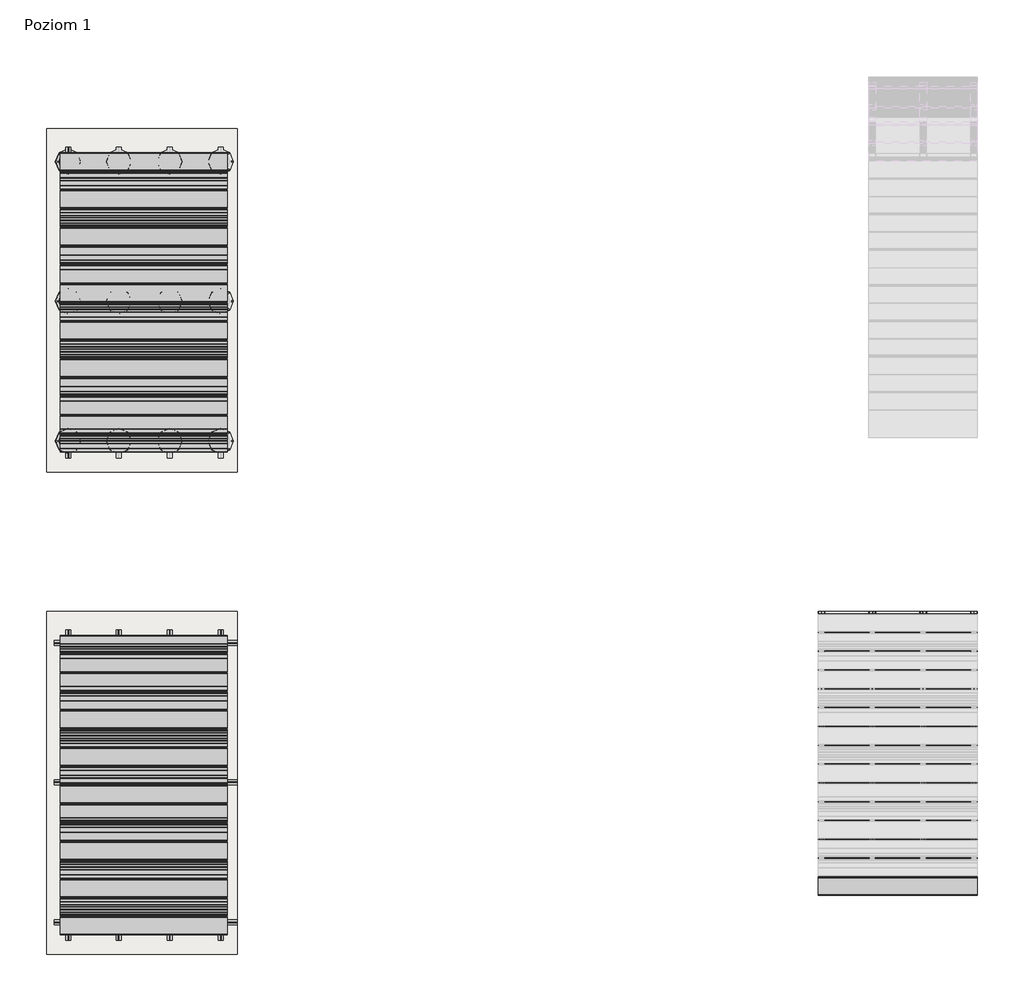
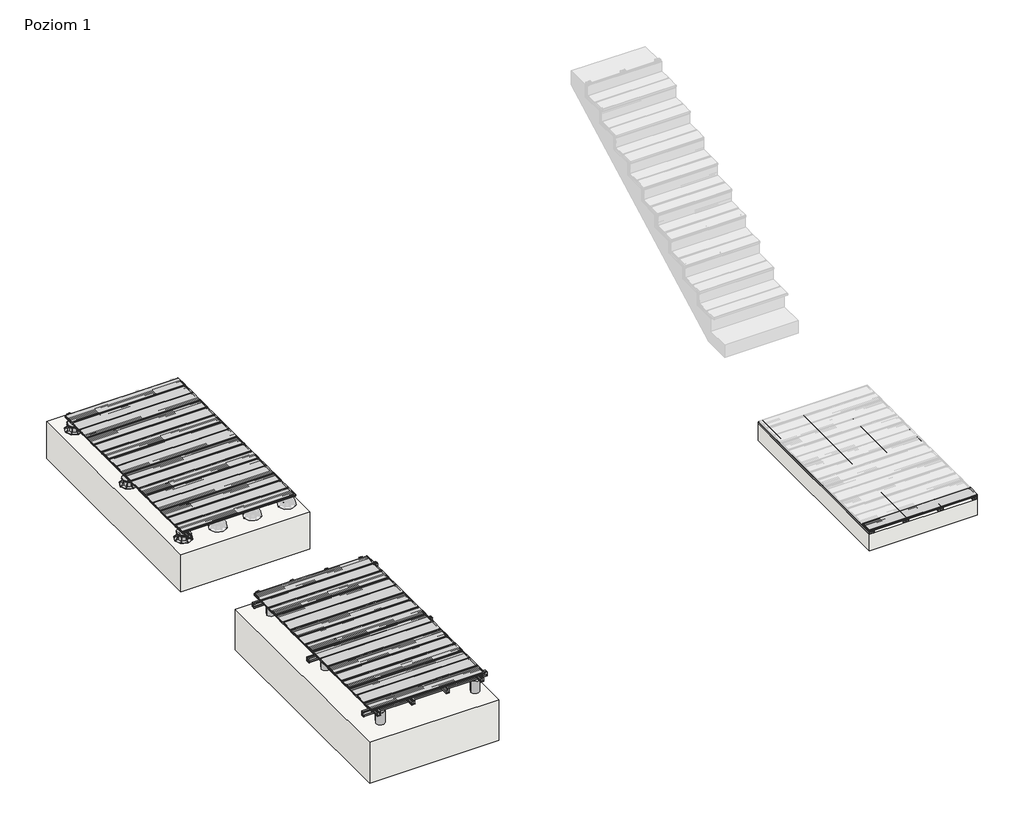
# One storey, part 1 of 3: 116 proxies, 6 columns, 3 slabs.
"""IFC4 building model written with IfcOpenShell, lengths in millimetres."""

from ifc_helpers import new_model, si_unit, frame, origin, place, context, project, spatial, polyline, outline, extrude, transform, mapped, element, save
from components import generic_models_f2eebd4b, generic_models_f69c671b, generic_models_c380d8c5, generic_models_7513529a, generic_models_15976a7a, deska_ld14022_deska_ld14022_7ee519a8, deska_ld14022_deska_ld14022_3323a89d, column_300mm_19173b5c

model = new_model("IFC4")

# Units and contexts
model_context = context("Model", 3, world=origin())
ifc_project = project(units=[si_unit("LENGTHUNIT", "METRE", prefix="MILLI")], contexts=[model_context])

# Site, building, storey
site = spatial("IfcSite", under=ifc_project)
building = spatial("IfcBuilding", under=site)
storey = spatial("IfcBuildingStorey", under=building, Name="Poziom 1", Elevation=0.0)

# Proxies
placement = place(None, origin())
generic_models_shape = generic_models_f2eebd4b(model_context)
element("IfcBuildingElementProxy", 1, Name="Klips montażowy : Klips montażowy", ObjectType="Klips montażowy : Klips montażowy", at=placement, inside=storey, context=model_context, shape_type="MappedRepresentation", body=[
    mapped(generic_models_shape, transform((6564.4622151, -12126.5985778, 0.0), x_axis=(1.0, 0.0, 0.0), y_axis=(0.0, 1.0, 0.0), z_axis=(0.0, 0.0, 1.0))),
])
element("IfcBuildingElementProxy", 2, Name="Klips montażowy : Klips montażowy", ObjectType="Klips montażowy : Klips montażowy", at=placement, inside=storey, context=model_context, shape_type="MappedRepresentation", body=[
    mapped(generic_models_shape, transform((6968.640944, -12127.0110448, 26.9981097), x_axis=(1.0, 0.0, 0.0), y_axis=(0.0, 1.0, 0.0), z_axis=(0.0, 0.0, 1.0))),
])
element("IfcBuildingElementProxy", 3, Name="Klips montażowy : Klips montażowy", ObjectType="Klips montażowy : Klips montażowy", at=placement, inside=storey, context=model_context, shape_type="MappedRepresentation", body=[
    mapped(generic_models_shape, transform((6568.640944, -12127.0110448, 26.9981097), x_axis=(1.0, 0.0, 0.0), y_axis=(0.0, 1.0, 0.0), z_axis=(0.0, 0.0, 1.0))),
])
element("IfcBuildingElementProxy", 4, Name="Klips montażowy : Klips montażowy", ObjectType="Klips montażowy : Klips montażowy", at=placement, inside=storey, context=model_context, shape_type="MappedRepresentation", body=[
    mapped(generic_models_shape, transform((6168.640944, -12127.0110448, 26.9981097), x_axis=(1.0, 0.0, 0.0), y_axis=(0.0, 1.0, 0.0), z_axis=(0.0, 0.0, 1.0))),
])
element("IfcBuildingElementProxy", 5, Name="Klips montażowy : Klips montażowy", ObjectType="Klips montażowy : Klips montażowy", at=placement, inside=storey, context=model_context, shape_type="MappedRepresentation", body=[
    mapped(generic_models_shape, transform((5768.640944, -12127.0110448, 26.9981097), x_axis=(1.0, 0.0, 0.0), y_axis=(0.0, 1.0, 0.0), z_axis=(0.0, 0.0, 1.0))),
])
element("IfcBuildingElementProxy", 6, Name="Klips montażowy : Klips montażowy", ObjectType="Klips montażowy : Klips montażowy", at=placement, inside=storey, context=model_context, shape_type="MappedRepresentation", body=[
    mapped(generic_models_shape, transform((1040.3000551, -11108.0905568, 100.0796601), x_axis=(1.0, 0.0, 0.0), y_axis=(0.0, 1.0, 0.0), z_axis=(0.0, 0.0, 1.0))),
])
element("IfcBuildingElementProxy", 7, Name="Klips montażowy : Klips montażowy", ObjectType="Klips montażowy : Klips montażowy", at=placement, inside=storey, context=model_context, shape_type="MappedRepresentation", body=[
    mapped(generic_models_shape, transform((1040.3000551, -11255.9053972, 100.0796601), x_axis=(1.0, 0.0, 0.0), y_axis=(0.0, 1.0, 0.0), z_axis=(0.0, 0.0, 1.0))),
])
element("IfcBuildingElementProxy", 8, Name="Klips montażowy : Klips montażowy", ObjectType="Klips montażowy : Klips montażowy", at=placement, inside=storey, context=model_context, shape_type="MappedRepresentation", body=[
    mapped(generic_models_shape, transform((1040.3000551, -11403.7202376, 100.0796601), x_axis=(1.0, 0.0, 0.0), y_axis=(0.0, 1.0, 0.0), z_axis=(0.0, 0.0, 1.0))),
])
element("IfcBuildingElementProxy", 9, Name="Klips montażowy : Klips montażowy", ObjectType="Klips montażowy : Klips montażowy", at=placement, inside=storey, context=model_context, shape_type="MappedRepresentation", body=[
    mapped(generic_models_shape, transform((1040.3000551, -11551.535078, 100.0796601), x_axis=(1.0, 0.0, 0.0), y_axis=(0.0, 1.0, 0.0), z_axis=(0.0, 0.0, 1.0))),
])
element("IfcBuildingElementProxy", 10, Name="Klips montażowy : Klips montażowy", ObjectType="Klips montażowy : Klips montażowy", at=placement, inside=storey, context=model_context, shape_type="MappedRepresentation", body=[
    mapped(generic_models_shape, transform((1040.3000551, -11699.3499184, 100.0796601), x_axis=(1.0, 0.0, 0.0), y_axis=(0.0, 1.0, 0.0), z_axis=(0.0, 0.0, 1.0))),
])
element("IfcBuildingElementProxy", 11, Name="Klips montażowy : Klips montażowy", ObjectType="Klips montażowy : Klips montażowy", at=placement, inside=storey, context=model_context, shape_type="MappedRepresentation", body=[
    mapped(generic_models_shape, transform((1040.3000551, -11847.1647588, 100.0796601), x_axis=(1.0, 0.0, 0.0), y_axis=(0.0, 1.0, 0.0), z_axis=(0.0, 0.0, 1.0))),
])
element("IfcBuildingElementProxy", 12, Name="Klips montażowy : Klips montażowy", ObjectType="Klips montażowy : Klips montażowy", at=placement, inside=storey, context=model_context, shape_type="MappedRepresentation", body=[
    mapped(generic_models_shape, transform((1040.3000551, -11994.9795992, 100.0796601), x_axis=(1.0, 0.0, 0.0), y_axis=(0.0, 1.0, 0.0), z_axis=(0.0, 0.0, 1.0))),
])
element("IfcBuildingElementProxy", 13, Name="Klips montażowy : Klips montażowy", ObjectType="Klips montażowy : Klips montażowy", at=placement, inside=storey, context=model_context, shape_type="MappedRepresentation", body=[
    mapped(generic_models_shape, transform((1040.3000551, -12142.7944396, 100.0796601), x_axis=(1.0, 0.0, 0.0), y_axis=(0.0, 1.0, 0.0), z_axis=(0.0, 0.0, 1.0))),
])
element("IfcBuildingElementProxy", 14, Name="Klips montażowy : Klips montażowy", ObjectType="Klips montażowy : Klips montażowy", at=placement, inside=storey, context=model_context, shape_type="MappedRepresentation", body=[
    mapped(generic_models_shape, transform((1040.3000551, -12290.60928, 100.0796601), x_axis=(1.0, 0.0, 0.0), y_axis=(0.0, 1.0, 0.0), z_axis=(0.0, 0.0, 1.0))),
])
element("IfcBuildingElementProxy", 15, Name="Klips montażowy : Klips montażowy", ObjectType="Klips montażowy : Klips montażowy", at=placement, inside=storey, context=model_context, shape_type="MappedRepresentation", body=[
    mapped(generic_models_shape, transform((1040.3000551, -12438.4241205, 100.0796601), x_axis=(1.0, 0.0, 0.0), y_axis=(0.0, 1.0, 0.0), z_axis=(0.0, 0.0, 1.0))),
])
element("IfcBuildingElementProxy", 16, Name="Klips montażowy : Klips montażowy", ObjectType="Klips montażowy : Klips montażowy", at=placement, inside=storey, context=model_context, shape_type="MappedRepresentation", body=[
    mapped(generic_models_shape, transform((640.3000551, -10369.0163547, 100.0796601), x_axis=(1.0, 0.0, 0.0), y_axis=(0.0, 1.0, 0.0), z_axis=(0.0, 0.0, 1.0))),
])
element("IfcBuildingElementProxy", 17, Name="Klips montażowy : Klips montażowy", ObjectType="Klips montażowy : Klips montażowy", at=placement, inside=storey, context=model_context, shape_type="MappedRepresentation", body=[
    mapped(generic_models_shape, transform((640.3000551, -10516.8311952, 100.0796601), x_axis=(1.0, 0.0, 0.0), y_axis=(0.0, 1.0, 0.0), z_axis=(0.0, 0.0, 1.0))),
])
element("IfcBuildingElementProxy", 18, Name="Klips montażowy : Klips montażowy", ObjectType="Klips montażowy : Klips montażowy", at=placement, inside=storey, context=model_context, shape_type="MappedRepresentation", body=[
    mapped(generic_models_shape, transform((640.3000551, -10664.6460356, 100.0796601), x_axis=(1.0, 0.0, 0.0), y_axis=(0.0, 1.0, 0.0), z_axis=(0.0, 0.0, 1.0))),
])
element("IfcBuildingElementProxy", 19, Name="Klips montażowy : Klips montażowy", ObjectType="Klips montażowy : Klips montażowy", at=placement, inside=storey, context=model_context, shape_type="MappedRepresentation", body=[
    mapped(generic_models_shape, transform((640.3000551, -11108.0905568, 100.0796601), x_axis=(1.0, 0.0, 0.0), y_axis=(0.0, 1.0, 0.0), z_axis=(0.0, 0.0, 1.0))),
])
element("IfcBuildingElementProxy", 20, Name="Klips montażowy : Klips montażowy", ObjectType="Klips montażowy : Klips montażowy", at=placement, inside=storey, context=model_context, shape_type="MappedRepresentation", body=[
    mapped(generic_models_shape, transform((640.3000551, -11255.9053972, 100.0796601), x_axis=(1.0, 0.0, 0.0), y_axis=(0.0, 1.0, 0.0), z_axis=(0.0, 0.0, 1.0))),
])
element("IfcBuildingElementProxy", 21, Name="Klips montażowy : Klips montażowy", ObjectType="Klips montażowy : Klips montażowy", at=placement, inside=storey, context=model_context, shape_type="MappedRepresentation", body=[
    mapped(generic_models_shape, transform((640.3000551, -11403.7202376, 100.0796601), x_axis=(1.0, 0.0, 0.0), y_axis=(0.0, 1.0, 0.0), z_axis=(0.0, 0.0, 1.0))),
])
element("IfcBuildingElementProxy", 22, Name="Klips montażowy : Klips montażowy", ObjectType="Klips montażowy : Klips montażowy", at=placement, inside=storey, context=model_context, shape_type="MappedRepresentation", body=[
    mapped(generic_models_shape, transform((640.3000551, -11551.535078, 100.0796601), x_axis=(1.0, 0.0, 0.0), y_axis=(0.0, 1.0, 0.0), z_axis=(0.0, 0.0, 1.0))),
])
element("IfcBuildingElementProxy", 23, Name="Klips montażowy : Klips montażowy", ObjectType="Klips montażowy : Klips montażowy", at=placement, inside=storey, context=model_context, shape_type="MappedRepresentation", body=[
    mapped(generic_models_shape, transform((640.3000551, -11699.3499184, 100.0796601), x_axis=(1.0, 0.0, 0.0), y_axis=(0.0, 1.0, 0.0), z_axis=(0.0, 0.0, 1.0))),
])
element("IfcBuildingElementProxy", 24, Name="Klips montażowy : Klips montażowy", ObjectType="Klips montażowy : Klips montażowy", at=placement, inside=storey, context=model_context, shape_type="MappedRepresentation", body=[
    mapped(generic_models_shape, transform((640.3000551, -11847.1647588, 100.0796601), x_axis=(1.0, 0.0, 0.0), y_axis=(0.0, 1.0, 0.0), z_axis=(0.0, 0.0, 1.0))),
])
element("IfcBuildingElementProxy", 25, Name="Klips montażowy : Klips montażowy", ObjectType="Klips montażowy : Klips montażowy", at=placement, inside=storey, context=model_context, shape_type="MappedRepresentation", body=[
    mapped(generic_models_shape, transform((640.3000551, -11994.9795992, 100.0796601), x_axis=(1.0, 0.0, 0.0), y_axis=(0.0, 1.0, 0.0), z_axis=(0.0, 0.0, 1.0))),
])
element("IfcBuildingElementProxy", 26, Name="Klips montażowy : Klips montażowy", ObjectType="Klips montażowy : Klips montażowy", at=placement, inside=storey, context=model_context, shape_type="MappedRepresentation", body=[
    mapped(generic_models_shape, transform((640.3000551, -12142.7944396, 100.0796601), x_axis=(1.0, 0.0, 0.0), y_axis=(0.0, 1.0, 0.0), z_axis=(0.0, 0.0, 1.0))),
])
element("IfcBuildingElementProxy", 27, Name="Klips montażowy : Klips montażowy", ObjectType="Klips montażowy : Klips montażowy", at=placement, inside=storey, context=model_context, shape_type="MappedRepresentation", body=[
    mapped(generic_models_shape, transform((640.3000551, -12290.60928, 100.0796601), x_axis=(1.0, 0.0, 0.0), y_axis=(0.0, 1.0, 0.0), z_axis=(0.0, 0.0, 1.0))),
])
element("IfcBuildingElementProxy", 28, Name="Klips montażowy : Klips montażowy", ObjectType="Klips montażowy : Klips montażowy", at=placement, inside=storey, context=model_context, shape_type="MappedRepresentation", body=[
    mapped(generic_models_shape, transform((640.3000551, -12438.4241205, 100.0796601), x_axis=(1.0, 0.0, 0.0), y_axis=(0.0, 1.0, 0.0), z_axis=(0.0, 0.0, 1.0))),
])
element("IfcBuildingElementProxy", 29, Name="Klips montażowy : Klips montażowy", ObjectType="Klips montażowy : Klips montażowy", at=placement, inside=storey, context=model_context, shape_type="MappedRepresentation", body=[
    mapped(generic_models_shape, transform((240.2735017, -11108.0905568, 100.0796601), x_axis=(1.0, 0.0, 0.0), y_axis=(0.0, 1.0, 0.0), z_axis=(0.0, 0.0, 1.0))),
])
element("IfcBuildingElementProxy", 30, Name="Klips montażowy : Klips montażowy", ObjectType="Klips montażowy : Klips montażowy", at=placement, inside=storey, context=model_context, shape_type="MappedRepresentation", body=[
    mapped(generic_models_shape, transform((240.2735017, -11255.9053972, 100.0796601), x_axis=(1.0, 0.0, 0.0), y_axis=(0.0, 1.0, 0.0), z_axis=(0.0, 0.0, 1.0))),
])
element("IfcBuildingElementProxy", 31, Name="Klips montażowy : Klips montażowy", ObjectType="Klips montażowy : Klips montażowy", at=placement, inside=storey, context=model_context, shape_type="MappedRepresentation", body=[
    mapped(generic_models_shape, transform((240.2735017, -11403.7202376, 100.0796601), x_axis=(1.0, 0.0, 0.0), y_axis=(0.0, 1.0, 0.0), z_axis=(0.0, 0.0, 1.0))),
])
element("IfcBuildingElementProxy", 32, Name="Klips montażowy : Klips montażowy", ObjectType="Klips montażowy : Klips montażowy", at=placement, inside=storey, context=model_context, shape_type="MappedRepresentation", body=[
    mapped(generic_models_shape, transform((240.2735017, -11551.535078, 100.0796601), x_axis=(1.0, 0.0, 0.0), y_axis=(0.0, 1.0, 0.0), z_axis=(0.0, 0.0, 1.0))),
])
element("IfcBuildingElementProxy", 33, Name="Klips montażowy : Klips montażowy", ObjectType="Klips montażowy : Klips montażowy", at=placement, inside=storey, context=model_context, shape_type="MappedRepresentation", body=[
    mapped(generic_models_shape, transform((240.2735017, -11699.3499184, 100.0796601), x_axis=(1.0, 0.0, 0.0), y_axis=(0.0, 1.0, 0.0), z_axis=(0.0, 0.0, 1.0))),
])
element("IfcBuildingElementProxy", 34, Name="Klips montażowy : Klips montażowy", ObjectType="Klips montażowy : Klips montażowy", at=placement, inside=storey, context=model_context, shape_type="MappedRepresentation", body=[
    mapped(generic_models_shape, transform((240.2735017, -11847.1647588, 100.0796601), x_axis=(1.0, 0.0, 0.0), y_axis=(0.0, 1.0, 0.0), z_axis=(0.0, 0.0, 1.0))),
])
element("IfcBuildingElementProxy", 35, Name="Klips montażowy : Klips montażowy", ObjectType="Klips montażowy : Klips montażowy", at=placement, inside=storey, context=model_context, shape_type="MappedRepresentation", body=[
    mapped(generic_models_shape, transform((240.2735017, -11994.9795992, 100.0796601), x_axis=(1.0, 0.0, 0.0), y_axis=(0.0, 1.0, 0.0), z_axis=(0.0, 0.0, 1.0))),
])
element("IfcBuildingElementProxy", 36, Name="Klips montażowy : Klips montażowy", ObjectType="Klips montażowy : Klips montażowy", at=placement, inside=storey, context=model_context, shape_type="MappedRepresentation", body=[
    mapped(generic_models_shape, transform((240.2735017, -12142.7944396, 100.0796601), x_axis=(1.0, 0.0, 0.0), y_axis=(0.0, 1.0, 0.0), z_axis=(0.0, 0.0, 1.0))),
])
element("IfcBuildingElementProxy", 37, Name="Klips montażowy : Klips montażowy", ObjectType="Klips montażowy : Klips montażowy", at=placement, inside=storey, context=model_context, shape_type="MappedRepresentation", body=[
    mapped(generic_models_shape, transform((240.2735017, -12290.60928, 100.0796601), x_axis=(1.0, 0.0, 0.0), y_axis=(0.0, 1.0, 0.0), z_axis=(0.0, 0.0, 1.0))),
])
element("IfcBuildingElementProxy", 38, Name="Klips montażowy : Klips montażowy", ObjectType="Klips montażowy : Klips montażowy", at=placement, inside=storey, context=model_context, shape_type="MappedRepresentation", body=[
    mapped(generic_models_shape, transform((240.2735017, -12438.4241205, 100.0796601), x_axis=(1.0, 0.0, 0.0), y_axis=(0.0, 1.0, 0.0), z_axis=(0.0, 0.0, 1.0))),
])
element("IfcBuildingElementProxy", 39, Name="Klips montażowy : Klips montażowy", ObjectType="Klips montażowy : Klips montażowy", at=placement, inside=storey, context=model_context, shape_type="MappedRepresentation", body=[
    mapped(generic_models_shape, transform((-159.7530516, -10369.0163547, 100.0796601), x_axis=(1.0, 0.0, 0.0), y_axis=(0.0, 1.0, 0.0), z_axis=(0.0, 0.0, 1.0))),
])
element("IfcBuildingElementProxy", 40, Name="Klips montażowy : Klips montażowy", ObjectType="Klips montażowy : Klips montażowy", at=placement, inside=storey, context=model_context, shape_type="MappedRepresentation", body=[
    mapped(generic_models_shape, transform((-159.7530516, -10516.8311952, 100.0796601), x_axis=(1.0, 0.0, 0.0), y_axis=(0.0, 1.0, 0.0), z_axis=(0.0, 0.0, 1.0))),
])
element("IfcBuildingElementProxy", 41, Name="Klips montażowy : Klips montażowy", ObjectType="Klips montażowy : Klips montażowy", at=placement, inside=storey, context=model_context, shape_type="MappedRepresentation", body=[
    mapped(generic_models_shape, transform((-159.7530516, -10664.6460356, 100.0796601), x_axis=(1.0, 0.0, 0.0), y_axis=(0.0, 1.0, 0.0), z_axis=(0.0, 0.0, 1.0))),
])
element("IfcBuildingElementProxy", 42, Name="Klips montażowy : Klips montażowy", ObjectType="Klips montażowy : Klips montażowy", at=placement, inside=storey, context=model_context, shape_type="MappedRepresentation", body=[
    mapped(generic_models_shape, transform((-159.7530516, -10812.460876, 100.0796601), x_axis=(1.0, 0.0, 0.0), y_axis=(0.0, 1.0, 0.0), z_axis=(0.0, 0.0, 1.0))),
])
element("IfcBuildingElementProxy", 43, Name="Klips montażowy : Klips montażowy", ObjectType="Klips montażowy : Klips montażowy", at=placement, inside=storey, context=model_context, shape_type="MappedRepresentation", body=[
    mapped(generic_models_shape, transform((-159.7530516, -10960.2757164, 100.0796601), x_axis=(1.0, 0.0, 0.0), y_axis=(0.0, 1.0, 0.0), z_axis=(0.0, 0.0, 1.0))),
])
element("IfcBuildingElementProxy", 44, Name="Klips montażowy : Klips montażowy", ObjectType="Klips montażowy : Klips montażowy", at=placement, inside=storey, context=model_context, shape_type="MappedRepresentation", body=[
    mapped(generic_models_shape, transform((-159.7530516, -11108.0905568, 100.0796601), x_axis=(1.0, 0.0, 0.0), y_axis=(0.0, 1.0, 0.0), z_axis=(0.0, 0.0, 1.0))),
])
element("IfcBuildingElementProxy", 45, Name="Klips montażowy : Klips montażowy", ObjectType="Klips montażowy : Klips montażowy", at=placement, inside=storey, context=model_context, shape_type="MappedRepresentation", body=[
    mapped(generic_models_shape, transform((-159.7530516, -11255.9053972, 100.0796601), x_axis=(1.0, 0.0, 0.0), y_axis=(0.0, 1.0, 0.0), z_axis=(0.0, 0.0, 1.0))),
])
element("IfcBuildingElementProxy", 46, Name="Klips montażowy : Klips montażowy", ObjectType="Klips montażowy : Klips montażowy", at=placement, inside=storey, context=model_context, shape_type="MappedRepresentation", body=[
    mapped(generic_models_shape, transform((-159.7530516, -11403.7202376, 100.0796601), x_axis=(1.0, 0.0, 0.0), y_axis=(0.0, 1.0, 0.0), z_axis=(0.0, 0.0, 1.0))),
])
element("IfcBuildingElementProxy", 47, Name="Klips montażowy : Klips montażowy", ObjectType="Klips montażowy : Klips montażowy", at=placement, inside=storey, context=model_context, shape_type="MappedRepresentation", body=[
    mapped(generic_models_shape, transform((-159.7530516, -11551.535078, 100.0796601), x_axis=(1.0, 0.0, 0.0), y_axis=(0.0, 1.0, 0.0), z_axis=(0.0, 0.0, 1.0))),
])
element("IfcBuildingElementProxy", 48, Name="Klips montażowy : Klips montażowy", ObjectType="Klips montażowy : Klips montażowy", at=placement, inside=storey, context=model_context, shape_type="MappedRepresentation", body=[
    mapped(generic_models_shape, transform((-159.7530516, -11699.3499184, 100.0796601), x_axis=(1.0, 0.0, 0.0), y_axis=(0.0, 1.0, 0.0), z_axis=(0.0, 0.0, 1.0))),
])
element("IfcBuildingElementProxy", 49, Name="Klips montażowy : Klips montażowy", ObjectType="Klips montażowy : Klips montażowy", at=placement, inside=storey, context=model_context, shape_type="MappedRepresentation", body=[
    mapped(generic_models_shape, transform((-159.7530516, -11847.1647588, 100.0796601), x_axis=(1.0, 0.0, 0.0), y_axis=(0.0, 1.0, 0.0), z_axis=(0.0, 0.0, 1.0))),
])
element("IfcBuildingElementProxy", 50, Name="Klips montażowy : Klips montażowy", ObjectType="Klips montażowy : Klips montażowy", at=placement, inside=storey, context=model_context, shape_type="MappedRepresentation", body=[
    mapped(generic_models_shape, transform((-159.7530516, -11994.9795992, 100.0796601), x_axis=(1.0, 0.0, 0.0), y_axis=(0.0, 1.0, 0.0), z_axis=(0.0, 0.0, 1.0))),
])
element("IfcBuildingElementProxy", 51, Name="Klips montażowy : Klips montażowy", ObjectType="Klips montażowy : Klips montażowy", at=placement, inside=storey, context=model_context, shape_type="MappedRepresentation", body=[
    mapped(generic_models_shape, transform((-159.7530516, -12142.7944396, 100.0796601), x_axis=(1.0, 0.0, 0.0), y_axis=(0.0, 1.0, 0.0), z_axis=(0.0, 0.0, 1.0))),
])
element("IfcBuildingElementProxy", 52, Name="Klips montażowy : Klips montażowy", ObjectType="Klips montażowy : Klips montażowy", at=placement, inside=storey, context=model_context, shape_type="MappedRepresentation", body=[
    mapped(generic_models_shape, transform((-159.7530516, -12290.60928, 100.0796601), x_axis=(1.0, 0.0, 0.0), y_axis=(0.0, 1.0, 0.0), z_axis=(0.0, 0.0, 1.0))),
])
element("IfcBuildingElementProxy", 53, Name="Klips montażowy : Klips montażowy", ObjectType="Klips montażowy : Klips montażowy", at=placement, inside=storey, context=model_context, shape_type="MappedRepresentation", body=[
    mapped(generic_models_shape, transform((-159.7530516, -12438.4241205, 100.0796601), x_axis=(1.0, 0.0, 0.0), y_axis=(0.0, 1.0, 0.0), z_axis=(0.0, 0.0, 1.0))),
])
element("IfcBuildingElementProxy", 54, Name="Klips montażowy : Klips montażowy", ObjectType="Klips montażowy : Klips montażowy", at=placement, inside=storey, context=model_context, shape_type="MappedRepresentation", body=[
    mapped(generic_models_shape, transform((-159.7530516, -6569.0163547, -19.9602499), x_axis=(1.0, 0.0, 0.0), y_axis=(0.0, 1.0, 0.0), z_axis=(0.0, 0.0, 1.0))),
])
element("IfcBuildingElementProxy", 55, Name="Klips montażowy : Klips montażowy", ObjectType="Klips montażowy : Klips montażowy", at=placement, inside=storey, context=model_context, shape_type="MappedRepresentation", body=[
    mapped(generic_models_shape, transform((-159.7530516, -6716.8311952, -19.9602499), x_axis=(1.0, 0.0, 0.0), y_axis=(0.0, 1.0, 0.0), z_axis=(0.0, 0.0, 1.0))),
])
element("IfcBuildingElementProxy", 56, Name="Klips montażowy : Klips montażowy", ObjectType="Klips montażowy : Klips montażowy", at=placement, inside=storey, context=model_context, shape_type="MappedRepresentation", body=[
    mapped(generic_models_shape, transform((-159.7530516, -6864.6460356, -19.9602499), x_axis=(1.0, 0.0, 0.0), y_axis=(0.0, 1.0, 0.0), z_axis=(0.0, 0.0, 1.0))),
])
element("IfcBuildingElementProxy", 57, Name="Klips montażowy : Klips montażowy", ObjectType="Klips montażowy : Klips montażowy", at=placement, inside=storey, context=model_context, shape_type="MappedRepresentation", body=[
    mapped(generic_models_shape, transform((-159.7530516, -7012.460876, -19.9602499), x_axis=(1.0, 0.0, 0.0), y_axis=(0.0, 1.0, 0.0), z_axis=(0.0, 0.0, 1.0))),
])
element("IfcBuildingElementProxy", 58, Name="Klips montażowy : Klips montażowy", ObjectType="Klips montażowy : Klips montażowy", at=placement, inside=storey, context=model_context, shape_type="MappedRepresentation", body=[
    mapped(generic_models_shape, transform((-159.7530516, -7160.2757164, -19.9602499), x_axis=(1.0, 0.0, 0.0), y_axis=(0.0, 1.0, 0.0), z_axis=(0.0, 0.0, 1.0))),
])
element("IfcBuildingElementProxy", 59, Name="Klips montażowy : Klips montażowy", ObjectType="Klips montażowy : Klips montażowy", at=placement, inside=storey, context=model_context, shape_type="MappedRepresentation", body=[
    mapped(generic_models_shape, transform((-159.7530516, -7308.0905568, -19.9602499), x_axis=(1.0, 0.0, 0.0), y_axis=(0.0, 1.0, 0.0), z_axis=(0.0, 0.0, 1.0))),
])
element("IfcBuildingElementProxy", 60, Name="Klips montażowy : Klips montażowy", ObjectType="Klips montażowy : Klips montażowy", at=placement, inside=storey, context=model_context, shape_type="MappedRepresentation", body=[
    mapped(generic_models_shape, transform((-159.7530516, -7455.9053972, -19.9602499), x_axis=(1.0, 0.0, 0.0), y_axis=(0.0, 1.0, 0.0), z_axis=(0.0, 0.0, 1.0))),
])
element("IfcBuildingElementProxy", 61, Name="Klips montażowy : Klips montażowy", ObjectType="Klips montażowy : Klips montażowy", at=placement, inside=storey, context=model_context, shape_type="MappedRepresentation", body=[
    mapped(generic_models_shape, transform((-159.7530516, -7603.7202376, -19.9602499), x_axis=(1.0, 0.0, 0.0), y_axis=(0.0, 1.0, 0.0), z_axis=(0.0, 0.0, 1.0))),
])
element("IfcBuildingElementProxy", 62, Name="Klips montażowy : Klips montażowy", ObjectType="Klips montażowy : Klips montażowy", at=placement, inside=storey, context=model_context, shape_type="MappedRepresentation", body=[
    mapped(generic_models_shape, transform((-159.7530516, -7751.535078, -19.9602499), x_axis=(1.0, 0.0, 0.0), y_axis=(0.0, 1.0, 0.0), z_axis=(0.0, 0.0, 1.0))),
])
element("IfcBuildingElementProxy", 63, Name="Klips montażowy : Klips montażowy", ObjectType="Klips montażowy : Klips montażowy", at=placement, inside=storey, context=model_context, shape_type="MappedRepresentation", body=[
    mapped(generic_models_shape, transform((-159.7530516, -7899.3499184, -19.9602499), x_axis=(1.0, 0.0, 0.0), y_axis=(0.0, 1.0, 0.0), z_axis=(0.0, 0.0, 1.0))),
])
element("IfcBuildingElementProxy", 64, Name="Klips montażowy : Klips montażowy", ObjectType="Klips montażowy : Klips montażowy", at=placement, inside=storey, context=model_context, shape_type="MappedRepresentation", body=[
    mapped(generic_models_shape, transform((-159.7530516, -8047.1647588, -19.9602499), x_axis=(1.0, 0.0, 0.0), y_axis=(0.0, 1.0, 0.0), z_axis=(0.0, 0.0, 1.0))),
])
element("IfcBuildingElementProxy", 65, Name="Klips montażowy : Klips montażowy", ObjectType="Klips montażowy : Klips montażowy", at=placement, inside=storey, context=model_context, shape_type="MappedRepresentation", body=[
    mapped(generic_models_shape, transform((-159.7530516, -8194.9795992, -19.9602499), x_axis=(1.0, 0.0, 0.0), y_axis=(0.0, 1.0, 0.0), z_axis=(0.0, 0.0, 1.0))),
])
element("IfcBuildingElementProxy", 66, Name="Klips montażowy : Klips montażowy", ObjectType="Klips montażowy : Klips montażowy", at=placement, inside=storey, context=model_context, shape_type="MappedRepresentation", body=[
    mapped(generic_models_shape, transform((-159.7530516, -8342.7944396, -19.9602499), x_axis=(1.0, 0.0, 0.0), y_axis=(0.0, 1.0, 0.0), z_axis=(0.0, 0.0, 1.0))),
])
element("IfcBuildingElementProxy", 67, Name="Klips montażowy : Klips montażowy", ObjectType="Klips montażowy : Klips montażowy", at=placement, inside=storey, context=model_context, shape_type="MappedRepresentation", body=[
    mapped(generic_models_shape, transform((-159.7530516, -8490.60928, -19.9602499), x_axis=(1.0, 0.0, 0.0), y_axis=(0.0, 1.0, 0.0), z_axis=(0.0, 0.0, 1.0))),
])
element("IfcBuildingElementProxy", 68, Name="Klips montażowy : Klips montażowy", ObjectType="Klips montażowy : Klips montażowy", at=placement, inside=storey, context=model_context, shape_type="MappedRepresentation", body=[
    mapped(generic_models_shape, transform((-159.7530516, -8638.4241205, -19.9602499), x_axis=(1.0, 0.0, 0.0), y_axis=(0.0, 1.0, 0.0), z_axis=(0.0, 0.0, 1.0))),
])
generic_models_2_shape = generic_models_f69c671b(model_context)
element("IfcBuildingElementProxy", 69, Name="Legar systemowy LD5030 : Legar systemowy LD5030", ObjectType="Legar systemowy LD5030 : Legar systemowy LD5030", at=placement, inside=storey, context=model_context, shape_type="MappedRepresentation", body=[
    mapped(generic_models_2_shape, transform((6941.7939993, -12270.6411412, -3.0018903), x_axis=(0.0, 1.0, 0.0), y_axis=(-1.0, 0.0, 0.0), z_axis=(0.0, 0.0, 1.0))),
])
element("IfcBuildingElementProxy", 70, Name="Legar systemowy LD5030 : Legar systemowy LD5030", ObjectType="Legar systemowy LD5030 : Legar systemowy LD5030", at=placement, inside=storey, context=model_context, shape_type="MappedRepresentation", body=[
    mapped(generic_models_2_shape, transform((6541.7939993, -12270.6411412, -3.0018903), x_axis=(0.0, 1.0, 0.0), y_axis=(-1.0, 0.0, 0.0), z_axis=(0.0, 0.0, 1.0))),
])
element("IfcBuildingElementProxy", 71, Name="Legar systemowy LD5030 : Legar systemowy LD5030", ObjectType="Legar systemowy LD5030 : Legar systemowy LD5030", at=placement, inside=storey, context=model_context, shape_type="MappedRepresentation", body=[
    mapped(generic_models_2_shape, transform((6141.7939993, -12270.6411412, -3.0018903), x_axis=(0.0, 1.0, 0.0), y_axis=(-1.0, 0.0, 0.0), z_axis=(0.0, 0.0, 1.0))),
])
element("IfcBuildingElementProxy", 72, Name="Legar systemowy LD5030 : Legar systemowy LD5030", ObjectType="Legar systemowy LD5030 : Legar systemowy LD5030", at=placement, inside=storey, context=model_context, shape_type="MappedRepresentation", body=[
    mapped(generic_models_2_shape, transform((5741.7939993, -12270.6411412, -3.0018903), x_axis=(0.0, 1.0, 0.0), y_axis=(-1.0, 0.0, 0.0), z_axis=(0.0, 0.0, 1.0))),
])
generic_models_3_shape = generic_models_c380d8c5(model_context)
element("IfcBuildingElementProxy", 73, Name="Legar LD5039ALU : Legar LD5039ALU", ObjectType="Legar LD5039ALU : Legar LD5039ALU", at=placement, inside=storey, context=model_context, shape_type="MappedRepresentation", body=[
    mapped(generic_models_3_shape, transform((1020.8790883, -12627.3004533, 50.0398301), x_axis=(0.0, 1.0, 0.0), y_axis=(-1.0, 0.0, 0.0), z_axis=(0.0, 0.0, 1.0))),
])
element("IfcBuildingElementProxy", 74, Name="Legar LD5039ALU : Legar LD5039ALU", ObjectType="Legar LD5039ALU : Legar LD5039ALU", at=placement, inside=storey, context=model_context, shape_type="MappedRepresentation", body=[
    mapped(generic_models_3_shape, transform((620.8790883, -12627.3004533, 50.0398301), x_axis=(0.0, 1.0, 0.0), y_axis=(-1.0, 0.0, 0.0), z_axis=(0.0, 0.0, 1.0))),
])
element("IfcBuildingElementProxy", 75, Name="Legar LD5039ALU : Legar LD5039ALU", ObjectType="Legar LD5039ALU : Legar LD5039ALU", at=placement, inside=storey, context=model_context, shape_type="MappedRepresentation", body=[
    mapped(generic_models_3_shape, transform((220.852535, -12627.3004533, 50.0398301), x_axis=(0.0, 1.0, 0.0), y_axis=(-1.0, 0.0, 0.0), z_axis=(0.0, 0.0, 1.0))),
])
element("IfcBuildingElementProxy", 76, Name="Legar LD5039ALU : Legar LD5039ALU", ObjectType="Legar LD5039ALU : Legar LD5039ALU", at=placement, inside=storey, context=model_context, shape_type="MappedRepresentation", body=[
    mapped(generic_models_3_shape, transform((-179.1740184, -12627.3004533, 50.0398301), x_axis=(0.0, 1.0, 0.0), y_axis=(-1.0, 0.0, 0.0), z_axis=(0.0, 0.0, 1.0))),
])
element("IfcBuildingElementProxy", 77, Name="Legar LD5039ALU : Legar LD5039ALU", ObjectType="Legar LD5039ALU : Legar LD5039ALU", at=placement, inside=storey, context=model_context, shape_type="MappedRepresentation", body=[
    mapped(generic_models_3_shape, transform((-179.1740184, -8827.3004533, -70.00008), x_axis=(0.0, 1.0, 0.0), y_axis=(-1.0, 0.0, 0.0), z_axis=(0.0, 0.0, 1.0))),
])
generic_models_4_shape = generic_models_7513529a(model_context)
element("IfcBuildingElementProxy", 78, Name="Legar LD5039ALU : Legar LD5039ALU", ObjectType="Legar LD5039ALU : Legar LD5039ALU", at=placement, inside=storey, context=model_context, shape_type="MappedRepresentation", body=[
    mapped(generic_models_4_shape, transform((-267.4103407, -10264.0120171, 0.0), x_axis=(1.0, 0.0, 0.0), y_axis=(0.0, 1.0, 0.0), z_axis=(0.0, 0.0, 1.0))),
])
element("IfcBuildingElementProxy", 79, Name="Legar LD5039ALU : Legar LD5039ALU", ObjectType="Legar LD5039ALU : Legar LD5039ALU", at=placement, inside=storey, context=model_context, shape_type="MappedRepresentation", body=[
    mapped(generic_models_4_shape, transform((-267.4103407, -11364.0120171, 0.0), x_axis=(1.0, 0.0, 0.0), y_axis=(0.0, 1.0, 0.0), z_axis=(0.0, 0.0, 1.0))),
])
element("IfcBuildingElementProxy", 80, Name="Legar LD5039ALU : Legar LD5039ALU", ObjectType="Legar LD5039ALU : Legar LD5039ALU", at=placement, inside=storey, context=model_context, shape_type="MappedRepresentation", body=[
    mapped(generic_models_4_shape, transform((-267.4103407, -12464.0120171, 0.0), x_axis=(1.0, 0.0, 0.0), y_axis=(0.0, 1.0, 0.0), z_axis=(0.0, 0.0, 1.0))),
])
generic_models_5_shape = generic_models_15976a7a(model_context)
element("IfcBuildingElementProxy", 81, Name="Podparcie legarow : Podparcie legarow", ObjectType="Podparcie legarow : Podparcie legarow", at=placement, inside=storey, context=model_context, shape_type="MappedRepresentation", body=[
    mapped(generic_models_5_shape, transform((-160.493721, -6495.1517151, -150.0), x_axis=(-1.0, 0.0, 0.0), y_axis=(0.0, -1.0, 0.0), z_axis=(0.0, 0.0, 1.0))),
])
element("IfcBuildingElementProxy", 82, Name="Podparcie legarow : Podparcie legarow", ObjectType="Podparcie legarow : Podparcie legarow", at=placement, inside=storey, context=model_context, shape_type="MappedRepresentation", body=[
    mapped(generic_models_5_shape, transform((-160.493721, -7595.1517151, -150.0), x_axis=(-1.0, 0.0, 0.0), y_axis=(0.0, -1.0, 0.0), z_axis=(0.0, 0.0, 1.0))),
])
element("IfcBuildingElementProxy", 83, Name="Podparcie legarow : Podparcie legarow", ObjectType="Podparcie legarow : Podparcie legarow", at=placement, inside=storey, context=model_context, shape_type="MappedRepresentation", body=[
    mapped(generic_models_5_shape, transform((-160.493721, -8695.1517151, -150.0), x_axis=(-1.0, 0.0, 0.0), y_axis=(0.0, -1.0, 0.0), z_axis=(0.0, 0.0, 1.0))),
])
deska_ld14022_deska_ld14022_shape = deska_ld14022_deska_ld14022_7ee519a8(model_context)
element("IfcBuildingElementProxy", 84, Name="Deska LD14022 : Deska LD14022", ObjectType="Deska LD14022 : Deska LD14022", at=placement, inside=storey, context=model_context, shape_type="MappedRepresentation", body=[
    mapped(deska_ld14022_deska_ld14022_shape, transform((5741.7939993, -12130.6411412, 27.9937199), x_axis=(1.0, 0.0, 0.0), y_axis=(0.0, 1.0, 0.0), z_axis=(0.0, 0.0, 1.0))),
])
deska_ld14022_deska_ld14022_2_shape = deska_ld14022_deska_ld14022_3323a89d(model_context)
element("IfcBuildingElementProxy", 85, Name="Deska LD14022 : Deska LD14022", ObjectType="Deska LD14022 : Deska LD14022", at=placement, inside=storey, context=model_context, shape_type="MappedRepresentation", body=[
    mapped(deska_ld14022_deska_ld14022_2_shape, transform((-222.2700801, -10225.0122161, 101.0752704), x_axis=(1.0, 0.0, 0.0), y_axis=(0.0, 1.0, 0.0), z_axis=(0.0, 0.0, 1.0))),
])
element("IfcBuildingElementProxy", 86, Name="Deska LD14022 : Deska LD14022", ObjectType="Deska LD14022 : Deska LD14022", at=placement, inside=storey, context=model_context, shape_type="MappedRepresentation", body=[
    mapped(deska_ld14022_deska_ld14022_2_shape, transform((-222.2700801, -10372.8270565, 101.0752704), x_axis=(1.0, 0.0, 0.0), y_axis=(0.0, 1.0, 0.0), z_axis=(0.0, 0.0, 1.0))),
])
element("IfcBuildingElementProxy", 87, Name="Deska LD14022 : Deska LD14022", ObjectType="Deska LD14022 : Deska LD14022", at=placement, inside=storey, context=model_context, shape_type="MappedRepresentation", body=[
    mapped(deska_ld14022_deska_ld14022_2_shape, transform((-222.2700801, -10520.6418969, 101.0752704), x_axis=(1.0, 0.0, 0.0), y_axis=(0.0, 1.0, 0.0), z_axis=(0.0, 0.0, 1.0))),
])
element("IfcBuildingElementProxy", 88, Name="Deska LD14022 : Deska LD14022", ObjectType="Deska LD14022 : Deska LD14022", at=placement, inside=storey, context=model_context, shape_type="MappedRepresentation", body=[
    mapped(deska_ld14022_deska_ld14022_2_shape, transform((-222.2700801, -10668.4567373, 101.0752704), x_axis=(1.0, 0.0, 0.0), y_axis=(0.0, 1.0, 0.0), z_axis=(0.0, 0.0, 1.0))),
])
element("IfcBuildingElementProxy", 89, Name="Deska LD14022 : Deska LD14022", ObjectType="Deska LD14022 : Deska LD14022", at=placement, inside=storey, context=model_context, shape_type="MappedRepresentation", body=[
    mapped(deska_ld14022_deska_ld14022_2_shape, transform((-222.2700801, -10816.2715777, 101.0752704), x_axis=(1.0, 0.0, 0.0), y_axis=(0.0, 1.0, 0.0), z_axis=(0.0, 0.0, 1.0))),
])
element("IfcBuildingElementProxy", 90, Name="Deska LD14022 : Deska LD14022", ObjectType="Deska LD14022 : Deska LD14022", at=placement, inside=storey, context=model_context, shape_type="MappedRepresentation", body=[
    mapped(deska_ld14022_deska_ld14022_2_shape, transform((-222.2700801, -10964.0864181, 101.0752704), x_axis=(1.0, 0.0, 0.0), y_axis=(0.0, 1.0, 0.0), z_axis=(0.0, 0.0, 1.0))),
])
element("IfcBuildingElementProxy", 91, Name="Deska LD14022 : Deska LD14022", ObjectType="Deska LD14022 : Deska LD14022", at=placement, inside=storey, context=model_context, shape_type="MappedRepresentation", body=[
    mapped(deska_ld14022_deska_ld14022_2_shape, transform((-222.2700801, -11111.9012586, 101.0752704), x_axis=(1.0, 0.0, 0.0), y_axis=(0.0, 1.0, 0.0), z_axis=(0.0, 0.0, 1.0))),
])
element("IfcBuildingElementProxy", 92, Name="Deska LD14022 : Deska LD14022", ObjectType="Deska LD14022 : Deska LD14022", at=placement, inside=storey, context=model_context, shape_type="MappedRepresentation", body=[
    mapped(deska_ld14022_deska_ld14022_2_shape, transform((-222.2700801, -11259.716099, 101.0752704), x_axis=(1.0, 0.0, 0.0), y_axis=(0.0, 1.0, 0.0), z_axis=(0.0, 0.0, 1.0))),
])
element("IfcBuildingElementProxy", 93, Name="Deska LD14022 : Deska LD14022", ObjectType="Deska LD14022 : Deska LD14022", at=placement, inside=storey, context=model_context, shape_type="MappedRepresentation", body=[
    mapped(deska_ld14022_deska_ld14022_2_shape, transform((-222.2700801, -11407.5309394, 101.0752704), x_axis=(1.0, 0.0, 0.0), y_axis=(0.0, 1.0, 0.0), z_axis=(0.0, 0.0, 1.0))),
])
element("IfcBuildingElementProxy", 94, Name="Deska LD14022 : Deska LD14022", ObjectType="Deska LD14022 : Deska LD14022", at=placement, inside=storey, context=model_context, shape_type="MappedRepresentation", body=[
    mapped(deska_ld14022_deska_ld14022_2_shape, transform((-222.2700801, -11555.3457798, 101.0752704), x_axis=(1.0, 0.0, 0.0), y_axis=(0.0, 1.0, 0.0), z_axis=(0.0, 0.0, 1.0))),
])
element("IfcBuildingElementProxy", 95, Name="Deska LD14022 : Deska LD14022", ObjectType="Deska LD14022 : Deska LD14022", at=placement, inside=storey, context=model_context, shape_type="MappedRepresentation", body=[
    mapped(deska_ld14022_deska_ld14022_2_shape, transform((-222.2700801, -11703.1606202, 101.0752704), x_axis=(1.0, 0.0, 0.0), y_axis=(0.0, 1.0, 0.0), z_axis=(0.0, 0.0, 1.0))),
])
element("IfcBuildingElementProxy", 96, Name="Deska LD14022 : Deska LD14022", ObjectType="Deska LD14022 : Deska LD14022", at=placement, inside=storey, context=model_context, shape_type="MappedRepresentation", body=[
    mapped(deska_ld14022_deska_ld14022_2_shape, transform((-222.2700801, -11850.9754606, 101.0752704), x_axis=(1.0, 0.0, 0.0), y_axis=(0.0, 1.0, 0.0), z_axis=(0.0, 0.0, 1.0))),
])
element("IfcBuildingElementProxy", 97, Name="Deska LD14022 : Deska LD14022", ObjectType="Deska LD14022 : Deska LD14022", at=placement, inside=storey, context=model_context, shape_type="MappedRepresentation", body=[
    mapped(deska_ld14022_deska_ld14022_2_shape, transform((-222.2700801, -11998.790301, 101.0752704), x_axis=(1.0, 0.0, 0.0), y_axis=(0.0, 1.0, 0.0), z_axis=(0.0, 0.0, 1.0))),
])
element("IfcBuildingElementProxy", 98, Name="Deska LD14022 : Deska LD14022", ObjectType="Deska LD14022 : Deska LD14022", at=placement, inside=storey, context=model_context, shape_type="MappedRepresentation", body=[
    mapped(deska_ld14022_deska_ld14022_2_shape, transform((-222.2700801, -12146.6051414, 101.0752704), x_axis=(1.0, 0.0, 0.0), y_axis=(0.0, 1.0, 0.0), z_axis=(0.0, 0.0, 1.0))),
])
element("IfcBuildingElementProxy", 99, Name="Deska LD14022 : Deska LD14022", ObjectType="Deska LD14022 : Deska LD14022", at=placement, inside=storey, context=model_context, shape_type="MappedRepresentation", body=[
    mapped(deska_ld14022_deska_ld14022_2_shape, transform((-222.2700801, -12294.4199818, 101.0752704), x_axis=(1.0, 0.0, 0.0), y_axis=(0.0, 1.0, 0.0), z_axis=(0.0, 0.0, 1.0))),
])
element("IfcBuildingElementProxy", 100, Name="Deska LD14022 : Deska LD14022", ObjectType="Deska LD14022 : Deska LD14022", at=placement, inside=storey, context=model_context, shape_type="MappedRepresentation", body=[
    mapped(deska_ld14022_deska_ld14022_2_shape, transform((-222.2700801, -12442.2348222, 101.0752704), x_axis=(1.0, 0.0, 0.0), y_axis=(0.0, 1.0, 0.0), z_axis=(0.0, 0.0, 1.0))),
])
element("IfcBuildingElementProxy", 101, Name="Deska LD14022 : Deska LD14022", ObjectType="Deska LD14022 : Deska LD14022", at=placement, inside=storey, context=model_context, shape_type="MappedRepresentation", body=[
    mapped(deska_ld14022_deska_ld14022_2_shape, transform((-222.2700801, -6425.0122161, -18.9646397), x_axis=(1.0, 0.0, 0.0), y_axis=(0.0, 1.0, 0.0), z_axis=(0.0, 0.0, 1.0))),
])
element("IfcBuildingElementProxy", 102, Name="Deska LD14022 : Deska LD14022", ObjectType="Deska LD14022 : Deska LD14022", at=placement, inside=storey, context=model_context, shape_type="MappedRepresentation", body=[
    mapped(deska_ld14022_deska_ld14022_2_shape, transform((-222.2700801, -6572.8270565, -18.9646397), x_axis=(1.0, 0.0, 0.0), y_axis=(0.0, 1.0, 0.0), z_axis=(0.0, 0.0, 1.0))),
])
element("IfcBuildingElementProxy", 103, Name="Deska LD14022 : Deska LD14022", ObjectType="Deska LD14022 : Deska LD14022", at=placement, inside=storey, context=model_context, shape_type="MappedRepresentation", body=[
    mapped(deska_ld14022_deska_ld14022_2_shape, transform((-222.2700801, -6720.6418969, -18.9646397), x_axis=(1.0, 0.0, 0.0), y_axis=(0.0, 1.0, 0.0), z_axis=(0.0, 0.0, 1.0))),
])
element("IfcBuildingElementProxy", 104, Name="Deska LD14022 : Deska LD14022", ObjectType="Deska LD14022 : Deska LD14022", at=placement, inside=storey, context=model_context, shape_type="MappedRepresentation", body=[
    mapped(deska_ld14022_deska_ld14022_2_shape, transform((-222.2700801, -6868.4567373, -18.9646397), x_axis=(1.0, 0.0, 0.0), y_axis=(0.0, 1.0, 0.0), z_axis=(0.0, 0.0, 1.0))),
])
element("IfcBuildingElementProxy", 105, Name="Deska LD14022 : Deska LD14022", ObjectType="Deska LD14022 : Deska LD14022", at=placement, inside=storey, context=model_context, shape_type="MappedRepresentation", body=[
    mapped(deska_ld14022_deska_ld14022_2_shape, transform((-222.2700801, -7016.2715777, -18.9646397), x_axis=(1.0, 0.0, 0.0), y_axis=(0.0, 1.0, 0.0), z_axis=(0.0, 0.0, 1.0))),
])
element("IfcBuildingElementProxy", 106, Name="Deska LD14022 : Deska LD14022", ObjectType="Deska LD14022 : Deska LD14022", at=placement, inside=storey, context=model_context, shape_type="MappedRepresentation", body=[
    mapped(deska_ld14022_deska_ld14022_2_shape, transform((-222.2700801, -7164.0864181, -18.9646397), x_axis=(1.0, 0.0, 0.0), y_axis=(0.0, 1.0, 0.0), z_axis=(0.0, 0.0, 1.0))),
])
element("IfcBuildingElementProxy", 107, Name="Deska LD14022 : Deska LD14022", ObjectType="Deska LD14022 : Deska LD14022", at=placement, inside=storey, context=model_context, shape_type="MappedRepresentation", body=[
    mapped(deska_ld14022_deska_ld14022_2_shape, transform((-222.2700801, -7311.9012586, -18.9646397), x_axis=(1.0, 0.0, 0.0), y_axis=(0.0, 1.0, 0.0), z_axis=(0.0, 0.0, 1.0))),
])
element("IfcBuildingElementProxy", 108, Name="Deska LD14022 : Deska LD14022", ObjectType="Deska LD14022 : Deska LD14022", at=placement, inside=storey, context=model_context, shape_type="MappedRepresentation", body=[
    mapped(deska_ld14022_deska_ld14022_2_shape, transform((-222.2700801, -7459.716099, -18.9646397), x_axis=(1.0, 0.0, 0.0), y_axis=(0.0, 1.0, 0.0), z_axis=(0.0, 0.0, 1.0))),
])
element("IfcBuildingElementProxy", 109, Name="Deska LD14022 : Deska LD14022", ObjectType="Deska LD14022 : Deska LD14022", at=placement, inside=storey, context=model_context, shape_type="MappedRepresentation", body=[
    mapped(deska_ld14022_deska_ld14022_2_shape, transform((-222.2700801, -7607.5309394, -18.9646397), x_axis=(1.0, 0.0, 0.0), y_axis=(0.0, 1.0, 0.0), z_axis=(0.0, 0.0, 1.0))),
])
element("IfcBuildingElementProxy", 110, Name="Deska LD14022 : Deska LD14022", ObjectType="Deska LD14022 : Deska LD14022", at=placement, inside=storey, context=model_context, shape_type="MappedRepresentation", body=[
    mapped(deska_ld14022_deska_ld14022_2_shape, transform((-222.2700801, -7755.3457798, -18.9646397), x_axis=(1.0, 0.0, 0.0), y_axis=(0.0, 1.0, 0.0), z_axis=(0.0, 0.0, 1.0))),
])
element("IfcBuildingElementProxy", 111, Name="Deska LD14022 : Deska LD14022", ObjectType="Deska LD14022 : Deska LD14022", at=placement, inside=storey, context=model_context, shape_type="MappedRepresentation", body=[
    mapped(deska_ld14022_deska_ld14022_2_shape, transform((-222.2700801, -7903.1606202, -18.9646397), x_axis=(1.0, 0.0, 0.0), y_axis=(0.0, 1.0, 0.0), z_axis=(0.0, 0.0, 1.0))),
])
element("IfcBuildingElementProxy", 112, Name="Deska LD14022 : Deska LD14022", ObjectType="Deska LD14022 : Deska LD14022", at=placement, inside=storey, context=model_context, shape_type="MappedRepresentation", body=[
    mapped(deska_ld14022_deska_ld14022_2_shape, transform((-222.2700801, -8050.9754606, -18.9646397), x_axis=(1.0, 0.0, 0.0), y_axis=(0.0, 1.0, 0.0), z_axis=(0.0, 0.0, 1.0))),
])
element("IfcBuildingElementProxy", 113, Name="Deska LD14022 : Deska LD14022", ObjectType="Deska LD14022 : Deska LD14022", at=placement, inside=storey, context=model_context, shape_type="MappedRepresentation", body=[
    mapped(deska_ld14022_deska_ld14022_2_shape, transform((-222.2700801, -8198.790301, -18.9646397), x_axis=(1.0, 0.0, 0.0), y_axis=(0.0, 1.0, 0.0), z_axis=(0.0, 0.0, 1.0))),
])
element("IfcBuildingElementProxy", 114, Name="Deska LD14022 : Deska LD14022", ObjectType="Deska LD14022 : Deska LD14022", at=placement, inside=storey, context=model_context, shape_type="MappedRepresentation", body=[
    mapped(deska_ld14022_deska_ld14022_2_shape, transform((-222.2700801, -8346.6051414, -18.9646397), x_axis=(1.0, 0.0, 0.0), y_axis=(0.0, 1.0, 0.0), z_axis=(0.0, 0.0, 1.0))),
])
element("IfcBuildingElementProxy", 115, Name="Deska LD14022 : Deska LD14022", ObjectType="Deska LD14022 : Deska LD14022", at=placement, inside=storey, context=model_context, shape_type="MappedRepresentation", body=[
    mapped(deska_ld14022_deska_ld14022_2_shape, transform((-222.2700801, -8494.4199818, -18.9646397), x_axis=(1.0, 0.0, 0.0), y_axis=(0.0, 1.0, 0.0), z_axis=(0.0, 0.0, 1.0))),
])
element("IfcBuildingElementProxy", 116, Name="Deska LD14022 : Deska LD14022", ObjectType="Deska LD14022 : Deska LD14022", at=placement, inside=storey, context=model_context, shape_type="MappedRepresentation", body=[
    mapped(deska_ld14022_deska_ld14022_2_shape, transform((-222.2700801, -8642.2348222, -18.9646397), x_axis=(1.0, 0.0, 0.0), y_axis=(0.0, 1.0, 0.0), z_axis=(0.0, 0.0, 1.0))),
])

# Columns
column_300mm_shape = column_300mm_19173b5c(model_context)
element("IfcColumn", 117, ObjectType="Słup betonowy o przekroju okrągłym : 300mm", at=placement, inside=storey, context=model_context, shape_type="MappedRepresentation", body=[
    mapped(column_300mm_shape, transform((1039.5593857, -12482.9103347, 0.0), x_axis=(1.0, 0.0, 0.0), y_axis=(0.0, 1.0, 0.0), z_axis=(0.0, 0.0, 1.0))),
])
element("IfcColumn", 118, ObjectType="Słup betonowy o przekroju okrągłym : 300mm", at=placement, inside=storey, context=model_context, shape_type="MappedRepresentation", body=[
    mapped(column_300mm_shape, transform((1039.5593857, -11382.9103347, 0.0), x_axis=(1.0, 0.0, 0.0), y_axis=(0.0, 1.0, 0.0), z_axis=(0.0, 0.0, 1.0))),
])
element("IfcColumn", 119, ObjectType="Słup betonowy o przekroju okrągłym : 300mm", at=placement, inside=storey, context=model_context, shape_type="MappedRepresentation", body=[
    mapped(column_300mm_shape, transform((1039.5593857, -10282.9103347, 0.0), x_axis=(1.0, 0.0, 0.0), y_axis=(0.0, 1.0, 0.0), z_axis=(0.0, 0.0, 1.0))),
])
element("IfcColumn", 120, ObjectType="Słup betonowy o przekroju okrągłym : 300mm", at=placement, inside=storey, context=model_context, shape_type="MappedRepresentation", body=[
    mapped(column_300mm_shape, transform((-60.4406143, -12482.9103347, 0.0), x_axis=(1.0, 0.0, 0.0), y_axis=(0.0, 1.0, 0.0), z_axis=(0.0, 0.0, 1.0))),
])
element("IfcColumn", 121, ObjectType="Słup betonowy o przekroju okrągłym : 300mm", at=placement, inside=storey, context=model_context, shape_type="MappedRepresentation", body=[
    mapped(column_300mm_shape, transform((-60.4406143, -11382.9103347, 0.0), x_axis=(1.0, 0.0, 0.0), y_axis=(0.0, 1.0, 0.0), z_axis=(0.0, 0.0, 1.0))),
])
element("IfcColumn", 122, ObjectType="Słup betonowy o przekroju okrągłym : 300mm", at=placement, inside=storey, context=model_context, shape_type="MappedRepresentation", body=[
    mapped(column_300mm_shape, transform((-60.4406143, -10282.9103347, 0.0), x_axis=(1.0, 0.0, 0.0), y_axis=(0.0, 1.0, 0.0), z_axis=(0.0, 0.0, 1.0))),
])

# Slabs
element("IfcSlab", 123, ObjectType="STGRUNT", at=placement, inside=storey, context=model_context, shape_type="SweptSolid", body=[
    extrude(outline(polyline([(-329.5886546, -10037.3105228), (1170.4113454, -10037.3105228), (1170.4113454, -12737.3105228), (-329.5886546, -12737.3105228), (-329.5886546, -10037.3105228)])), frame((0.0, 0.0, -650.0), z_axis=(0.0, 0.0, 1.0), x_axis=(1.0, 0.0, 0.0)), (0.0, 0.0, 1.0), 500.0),
])
element("IfcSlab", 124, ObjectType="STROP BETONOWY Z WARSTWAMI", at=placement, inside=storey, context=model_context, shape_type="SweptSolid", body=[
    extrude(outline(polyline([(-329.5886546, -6237.3105228), (1170.4113454, -6237.3105228), (1170.4113454, -8937.3105228), (-329.5886546, -8937.3105228), (-329.5886546, -6237.3105228)])), frame((0.0, 0.0, -602.0), z_axis=(0.0, 0.0, 1.0), x_axis=(1.0, 0.0, 0.0)), (0.0, 0.0, 1.0), 452.0),
])
element("IfcSlab", 125, ObjectType="STROP BETONOWY", at=placement, inside=storey, context=model_context, shape_type="SweptSolid", body=[
    extrude(outline(polyline([(6996.0560172, -10037.3105228), (6996.0560172, -12270.6411412), (5741.7939993, -12270.6411412), (5741.7939993, -10037.3105228), (6996.0560172, -10037.3105228)])), frame((0.0, 0.0, -203.0018903), z_axis=(0.0, 0.0, 1.0), x_axis=(1.0, 0.0, 0.0)), (0.0, 0.0, 1.0), 200.0),
])

save(model, "model.ifc")
